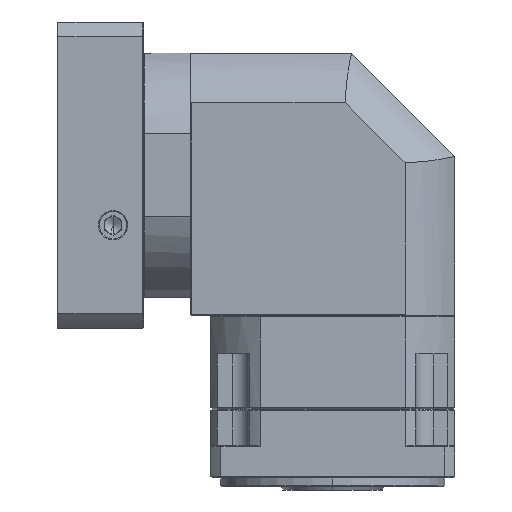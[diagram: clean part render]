
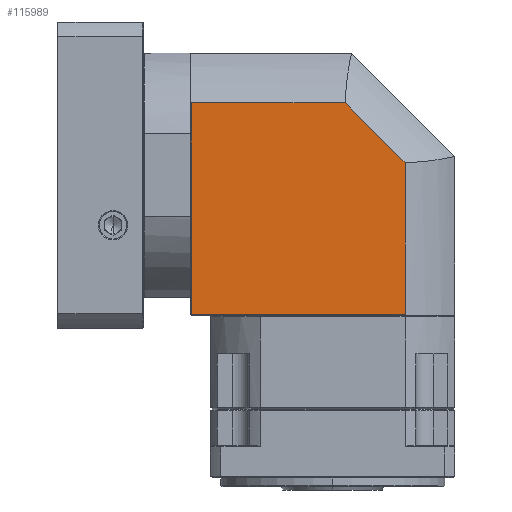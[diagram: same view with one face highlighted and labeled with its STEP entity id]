
A CAD part, left-side view. The second image highlights one B-rep face of the part: STEP entity #115989.
In plain terms, the highlighted planar face has unit normal (-1, 0, 0).
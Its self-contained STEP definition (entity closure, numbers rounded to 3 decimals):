
#7481 = ORIENTED_EDGE ( 'NONE', *, *, #29814, .T. ) ;
#16900 = CARTESIAN_POINT ( 'NONE',  ( -157.918, 88.655, -60.722 ) ) ;
#17414 = CARTESIAN_POINT ( 'NONE',  ( -157.918, 40.89, 27.32 ) ) ;
#17921 = VERTEX_POINT ( 'NONE', #21161 ) ;
#19629 = CARTESIAN_POINT ( 'NONE',  ( -157.918, 40.89, 14.878 ) ) ;
#21161 = CARTESIAN_POINT ( 'NONE',  ( -157.918, 164.905, -60.722 ) ) ;
#22396 = LINE ( 'NONE', #25155, #104706 ) ;
#25155 = CARTESIAN_POINT ( 'NONE',  ( -157.918, 164.905, 14.878 ) ) ;
#28992 = ORIENTED_EDGE ( 'NONE', *, *, #86146, .F. ) ;
#29814 = EDGE_CURVE ( 'NONE', #17921, #97093, #35004, .T. ) ;
#32293 = DIRECTION ( 'NONE',  ( 0., 0., -1. ) ) ;
#33696 = LINE ( 'NONE', #78997, #111164 ) ;
#35004 = LINE ( 'NONE', #16900, #112456 ) ;
#35106 = ORIENTED_EDGE ( 'NONE', *, *, #59942, .T. ) ;
#35361 = DIRECTION ( 'NONE',  ( 0., 0., 1. ) ) ;
#36901 = VECTOR ( 'NONE', #84077, 1000. ) ;
#37167 = AXIS2_PLACEMENT_3D ( 'NONE', #64076, #103856, #32293 ) ;
#38921 = EDGE_CURVE ( 'NONE', #55327, #88045, #33696, .T. ) ;
#48846 = FACE_OUTER_BOUND ( 'NONE', #67630, .T. ) ;
#51367 = DIRECTION ( 'NONE',  ( 0., 0., 1. ) ) ;
#55327 = VERTEX_POINT ( 'NONE', #17414 ) ;
#59942 = EDGE_CURVE ( 'NONE', #97093, #55327, #72878, .T. ) ;
#60113 = CARTESIAN_POINT ( 'NONE',  ( -157.918, 40.89, -60.722 ) ) ;
#61769 = VERTEX_POINT ( 'NONE', #64103 ) ;
#62763 = CARTESIAN_POINT ( 'NONE',  ( -157.918, -188.514, 61.993 ) ) ;
#63757 = LINE ( 'NONE', #62763, #36901 ) ;
#64076 = CARTESIAN_POINT ( 'NONE',  ( -157.918, 88.655, 14.878 ) ) ;
#64103 = CARTESIAN_POINT ( 'NONE',  ( -157.918, 164.905, 61.993 ) ) ;
#67630 = EDGE_LOOP ( 'NONE', ( #28992, #107576, #7481, #35106, #125756 ) ) ;
#67774 = DIRECTION ( 'NONE',  ( 0., -1., 0. ) ) ;
#70150 = EDGE_CURVE ( 'NONE', #17921, #61769, #22396, .T. ) ;
#71452 = CARTESIAN_POINT ( 'NONE',  ( -157.918, 75.563, 61.993 ) ) ;
#72878 = LINE ( 'NONE', #19629, #90291 ) ;
#78997 = CARTESIAN_POINT ( 'NONE',  ( -157.918, 40.89, 27.32 ) ) ;
#84077 = DIRECTION ( 'NONE',  ( 0., -1., 0. ) ) ;
#86146 = EDGE_CURVE ( 'NONE', #61769, #88045, #63757, .T. ) ;
#88045 = VERTEX_POINT ( 'NONE', #71452 ) ;
#90291 = VECTOR ( 'NONE', #51367, 1000. ) ;
#92918 = PLANE ( 'NONE',  #37167 ) ;
#97093 = VERTEX_POINT ( 'NONE', #60113 ) ;
#103856 = DIRECTION ( 'NONE',  ( -1., 0., 0. ) ) ;
#104706 = VECTOR ( 'NONE', #35361, 1000. ) ;
#107576 = ORIENTED_EDGE ( 'NONE', *, *, #70150, .F. ) ;
#111164 = VECTOR ( 'NONE', #129805, 1000. ) ;
#112456 = VECTOR ( 'NONE', #67774, 1000. ) ;
#115989 = ADVANCED_FACE ( 'NONE', ( #48846 ), #92918, .T. ) ;
#125756 = ORIENTED_EDGE ( 'NONE', *, *, #38921, .T. ) ;
#129805 = DIRECTION ( 'NONE',  ( 0., 0.707, 0.707 ) ) ;
